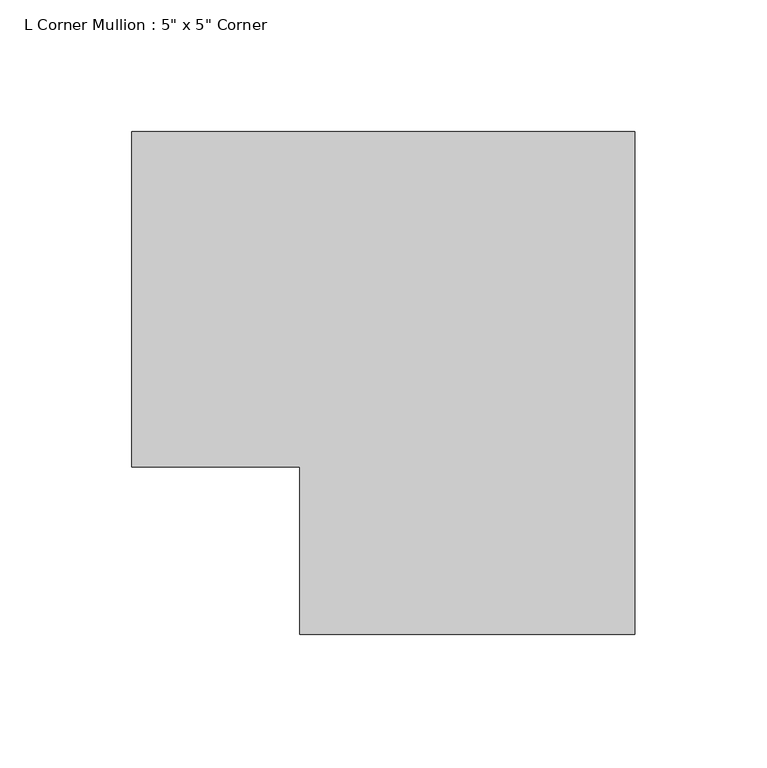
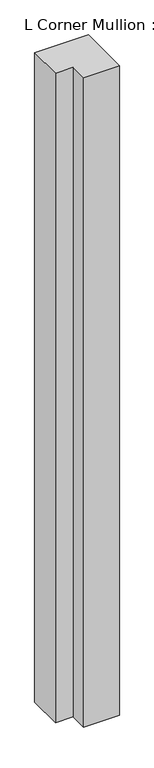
"""IFC4 building model written with IfcOpenShell, lengths in millimetres: member geometry."""

from ifc_helpers import new_model, si_unit, frame, origin, place, context, project, spatial, polyline, outline, extrude, source, transform, mapped, element, save


def member_47e31e63(model_context):
    return source(origin(), model_context, "Body", "SweptSolid", [
        extrude(outline(polyline([(-63.5, -127.0), (-63.5, -63.5), (-127.0, -63.5), (-127.0, 63.5), (63.5, 63.5), (63.5, -127.0), (-63.5, -127.0)])), frame((0.0, 0.0, -2438.4), z_axis=(0.0, 0.0, 1.0), x_axis=(1.0, 0.0, 0.0)), (0.0, 0.0, 1.0), 2438.4),
    ])


if __name__ == "__main__":
    model = new_model("IFC4")
    model_context = context("Model", 3, world=origin())
    ifc_project = project(units=[si_unit("LENGTHUNIT", "METRE", prefix="MILLI")], contexts=[model_context])
    site = spatial("IfcSite", under=ifc_project)
    building = spatial("IfcBuilding", under=site)
    placement = place(None, origin())
    member_shape = member_47e31e63(model_context)
    element("IfcMember", 1, ObjectType="L Corner Mullion : 5\" x 5\" Corner", at=placement, inside=building, context=model_context, shape_type="MappedRepresentation", body=[
        mapped(member_shape, transform((0.0, 0.0, 0.0), x_axis=(1.0, 0.0, 0.0), y_axis=(0.0, 1.0, 0.0), z_axis=(0.0, 0.0, 1.0))),
    ])
    save(model, "model.ifc")
